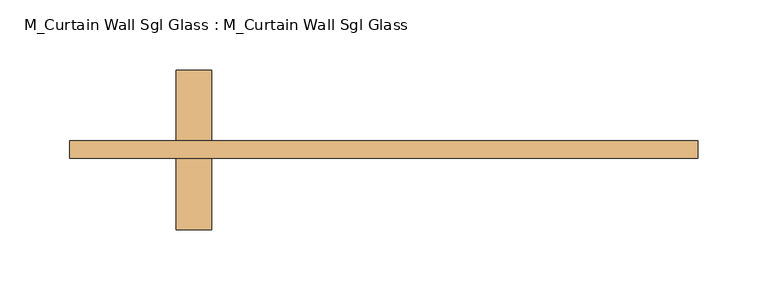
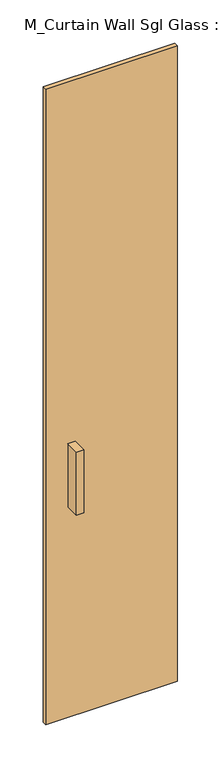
"""IFC4 building model written with IfcOpenShell, lengths in millimetres: door geometry, M_Curtain Wall Sgl Glass : M_Curtain Wall Sgl Glass."""

from ifc_helpers import new_model, si_unit, frame, origin, origin_with_axes, place, context, project, spatial, polyline, outline, extrude, source, transform, mapped, element, save


def m_curtain_wall_sgl_glass_m_curtain_wall_sgl_glass_abddcc44(model_context):
    return source(origin(), model_context, "Body", "SweptSolid", [
        extrude(outline(polyline([(-123.4, -63.5), (-148.8, -63.5), (-148.8, -12.7), (-123.4, -12.7), (-123.4, -63.5)])), frame((0.0, 0.0, 762.0), z_axis=(0.0, 0.0, 1.0), x_axis=(1.0, 0.0, 0.0)), (0.0, 0.0, 1.0), 228.6),
        extrude(outline(polyline([(-148.8, 50.8), (-123.4, 50.8), (-123.4, 0.0), (-148.8, 0.0), (-148.8, 50.8)])), frame((0.0, 0.0, 762.0), z_axis=(0.0, 0.0, 1.0), x_axis=(1.0, 0.0, 0.0)), (0.0, 0.0, 1.0), 228.6),
        extrude(outline(polyline([(225.0, 0.0), (225.0, -12.7), (-225.0, -12.7), (-225.0, 0.0), (225.0, 0.0)])), origin_with_axes(), (0.0, 0.0, 1.0), 2300.0),
    ])


if __name__ == "__main__":
    model = new_model("IFC4")
    model_context = context("Model", 3, world=origin())
    ifc_project = project(units=[si_unit("LENGTHUNIT", "METRE", prefix="MILLI")], contexts=[model_context])
    site = spatial("IfcSite", under=ifc_project)
    building = spatial("IfcBuilding", under=site)
    placement = place(None, origin())
    m_curtain_wall_sgl_glass_m_curtain_wall_sgl_glass_shape = m_curtain_wall_sgl_glass_m_curtain_wall_sgl_glass_abddcc44(model_context)
    element("IfcDoor", 1, ObjectType="M_Curtain Wall Sgl Glass : M_Curtain Wall Sgl Glass", at=placement, inside=building, context=model_context, shape_type="MappedRepresentation", body=[
        mapped(m_curtain_wall_sgl_glass_m_curtain_wall_sgl_glass_shape, transform((0.0, 0.0, 0.0), x_axis=(1.0, 0.0, 0.0), y_axis=(0.0, 1.0, 0.0), z_axis=(0.0, 0.0, 1.0))),
    ])
    save(model, "model.ifc")
